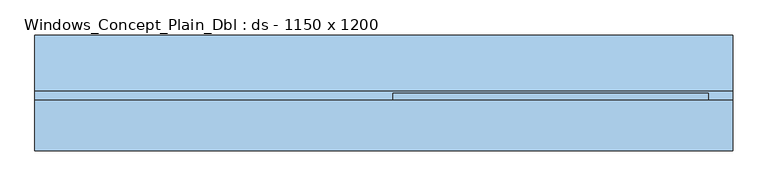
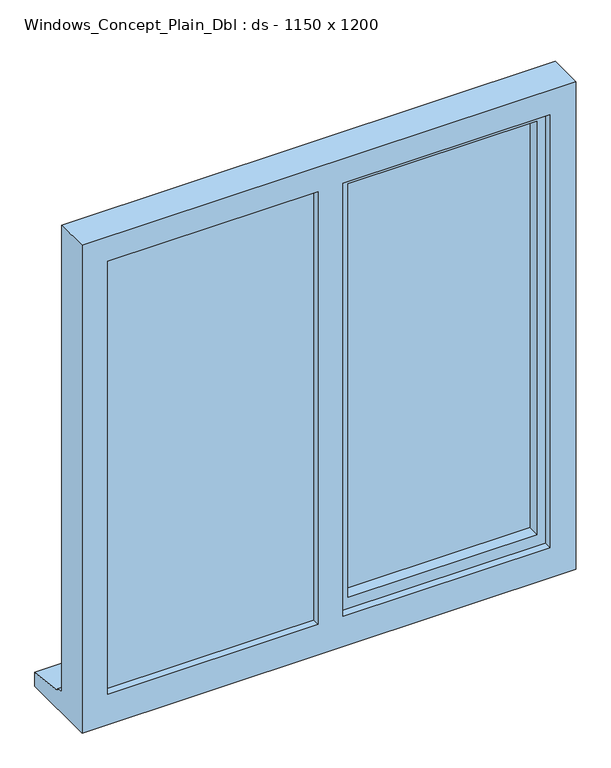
"""IFC4 building model written with IfcOpenShell, lengths in millimetres: window geometry, Windows_Concept_Plain_Dbl : ds - 1150 x 1200."""

from ifc_helpers import new_model, si_unit, frame, origin, place, context, project, spatial, polyline, outline, extrude, faceted_brep, source, transform, mapped, element, save


def windows_concept_plain_dbl_ds_1150_x_1200_ffe28008(model_context):
    return source(origin(), model_context, "Body", "SolidModel", [
        extrude(outline(polyline([(220.0, 52.4565678), (-240.0, 52.4565678), (-240.0, 76.4565678), (220.0, 76.4565678), (220.0, 52.4565678)])), frame((0.0, 0.0, 1003.0), z_axis=(0.0, 0.0, 1.0), x_axis=(1.0, 0.0, 0.0)), (0.0, 0.0, 1.0), 1037.0),
        extrude(outline(polyline([(-820.0, 47.4565678), (-300.0, 47.4565678), (-300.0, 23.4565678), (-820.0, 23.4565678), (-820.0, 47.4565678)])), frame((0.0, 0.0, 973.0), z_axis=(0.0, 0.0, 1.0), x_axis=(1.0, 0.0, 0.0)), (0.0, 0.0, 1.0), 1097.0),
        faceted_brep([(290.0, 5.4565678, 2110.0), (-860.0, 5.4565678, 2110.0), (-860.0, 5.4565678, 910.0), (290.0, 5.4565678, 910.0), (230.0, 5.4565678, 2050.0), (230.0, 5.4565678, 985.0), (-252.0, 5.4565678, 985.0), (-252.0, 5.4565678, 2050.0), (-310.0, 5.4565678, 2050.0), (-310.0, 5.4565678, 985.0), (-800.0, 5.4565678, 985.0), (-800.0, 5.4565678, 2050.0), (-860.0, 88.4565678, 2110.0), (-860.0, 88.4565678, 961.0), (-860.0, 103.4565678, 959.68767), (-860.0, 103.4565678, 954.7449676), (-860.0, 195.9565678, 943.8088847), (-860.0, 195.9565678, 910.0), (290.0, 88.4565678, 2110.0), (290.0, 88.4565678, 961.0), (-820.0, 88.4565678, 2070.0), (-820.0, 88.4565678, 973.0), (-310.0, 88.4565678, 973.0), (-310.0, 88.4565678, 2070.0), (-270.0, 88.4565678, 2070.0), (-270.0, 88.4565678, 973.0), (250.0, 88.4565678, 973.0), (250.0, 88.4565678, 2070.0), (-820.0, 23.4565678, 2070.0), (-820.0, 23.4565678, 973.0), (-300.0, 23.4565678, 2070.0), (-300.0, 23.4565678, 973.0), (-310.0, 23.4565678, 2050.0), (-800.0, 23.4565678, 2050.0), (-800.0, 23.4565678, 985.0), (-310.0, 23.4565678, 985.0), (-270.0, 23.4565678, 2070.0), (250.0, 23.4565678, 2070.0), (250.0, 23.4565678, 973.0), (-270.0, 23.4565678, 973.0), (230.0, 23.4565678, 2050.0), (-252.0, 23.4565678, 2050.0), (-252.0, 23.4565678, 985.0), (230.0, 23.4565678, 985.0), (-310.0, 47.4565678, 2070.0), (-300.0, 47.4565678, 2070.0), (290.0, 195.9565678, 910.0), (290.0, 195.9565678, 943.8088847), (290.0, 103.4565678, 954.7449676), (290.0, 103.4565678, 959.68767), (-300.0, 47.4565678, 973.0), (-310.0, 47.4565678, 973.0)], [[[0, 1, 2, 3], [4, 5, 6, 7], [8, 9, 10, 11]], [[2, 1, 12, 13, 14, 15, 16, 17]], [[13, 12, 18, 19], [20, 21, 22, 23], [24, 25, 26, 27]], [[21, 20, 28, 29]], [[28, 30, 31, 29], [32, 33, 34, 35]], [[36, 37, 38, 39], [40, 41, 42, 43]], [[33, 11, 10, 34]], [[1, 0, 18, 12]], [[28, 20, 23, 44, 45, 30]], [[27, 37, 36, 24]], [[11, 33, 32, 8]], [[40, 4, 7, 41]], [[19, 18, 0, 3, 46, 47, 48, 49]], [[27, 26, 38, 37]], [[4, 40, 43, 5]], [[45, 50, 31, 30]], [[50, 45, 44, 51]], [[51, 44, 23, 22]], [[25, 24, 36, 39]], [[41, 7, 6, 42]], [[8, 32, 35, 9]], [[46, 3, 2, 17]], [[47, 46, 17, 16]], [[48, 47, 16, 15]], [[49, 48, 15, 14]], [[19, 49, 14, 13]], [[22, 21, 29, 31, 50, 51]], [[26, 25, 39, 38]], [[6, 5, 43, 42]], [[35, 34, 10, 9]]]),
        extrude(outline(polyline([(2050.0, -310.0), (2070.0, -310.0), (2070.0, -820.0), (973.0, -820.0), (973.0, -310.0), (993.0, -310.0), (993.0, -800.0), (2050.0, -800.0), (2050.0, -310.0)])), frame((0.0, 47.4565678, 0.0), z_axis=(0.0, 1.0, 0.0), x_axis=(0.0, 0.0, 1.0)), (0.0, 0.0, 1.0), 41.0),
        faceted_brep([(-270.0, 23.4565678, 2070.0), (-270.0, 100.0035732, 2070.0), (-270.0, 100.0035732, 973.0), (-270.0, 23.4565678, 973.0), (-230.0, 52.4565678, 2030.0), (-230.0, 23.4565678, 2030.0), (-230.0, 23.4565678, 1013.0), (-230.0, 52.4565678, 1013.0), (-240.0, 76.4565678, 2040.0), (-240.0, 52.4565678, 2040.0), (-240.0, 52.4565678, 1003.0), (-240.0, 76.4565678, 1003.0), (-230.0, 100.0035732, 2030.0), (-230.0, 76.4565678, 2030.0), (-230.0, 76.4565678, 1013.0), (-230.0, 100.0035732, 1013.0), (250.0, 100.0035732, 973.0), (250.0, 23.4565678, 973.0), (210.0, 23.4565678, 1013.0), (210.0, 52.4565678, 1013.0), (220.0, 52.4565678, 1003.0), (220.0, 76.4565678, 1003.0), (210.0, 76.4565678, 1013.0), (210.0, 100.0035732, 1013.0), (250.0, 100.0035732, 2070.0), (250.0, 23.4565678, 2070.0), (210.0, 23.4565678, 2030.0), (210.0, 52.4565678, 2030.0), (220.0, 52.4565678, 2040.0), (220.0, 76.4565678, 2040.0), (210.0, 76.4565678, 2030.0), (210.0, 100.0035732, 2030.0)], [[[0, 1, 2, 3]], [[4, 5, 6, 7]], [[8, 9, 10, 11]], [[12, 13, 14, 15]], [[3, 2, 16, 17]], [[7, 6, 18, 19]], [[11, 10, 20, 21]], [[15, 14, 22, 23]], [[17, 16, 24, 25]], [[19, 18, 26, 27]], [[21, 20, 28, 29]], [[23, 22, 30, 31]], [[1, 24, 16, 2], [15, 23, 31, 12]], [[25, 24, 1, 0]], [[3, 17, 25, 0], [5, 26, 18, 6]], [[27, 26, 5, 4]], [[9, 28, 20, 10], [7, 19, 27, 4]], [[29, 28, 9, 8]], [[11, 21, 29, 8], [13, 30, 22, 14]], [[31, 30, 13, 12]]]),
    ])


if __name__ == "__main__":
    model = new_model("IFC4")
    model_context = context("Model", 3, world=origin())
    ifc_project = project(units=[si_unit("LENGTHUNIT", "METRE", prefix="MILLI")], contexts=[model_context])
    site = spatial("IfcSite", under=ifc_project)
    building = spatial("IfcBuilding", under=site)
    placement = place(None, origin())
    windows_concept_plain_dbl_ds_1150_x_1200_shape = windows_concept_plain_dbl_ds_1150_x_1200_ffe28008(model_context)
    element("IfcWindow", 1, ObjectType="Windows_Concept_Plain_Dbl : ds - 1150 x 1200", at=placement, inside=building, context=model_context, shape_type="MappedRepresentation", body=[
        mapped(windows_concept_plain_dbl_ds_1150_x_1200_shape, transform((0.0, 0.0, 0.0), x_axis=(1.0, 0.0, 0.0), y_axis=(0.0, 1.0, 0.0), z_axis=(0.0, 0.0, 1.0))),
    ])
    save(model, "model.ifc")
